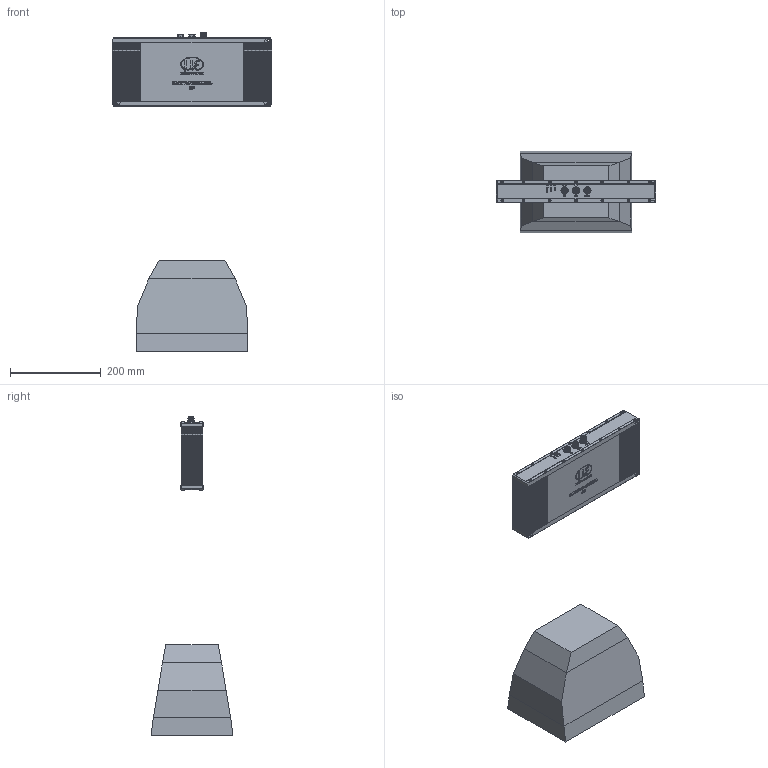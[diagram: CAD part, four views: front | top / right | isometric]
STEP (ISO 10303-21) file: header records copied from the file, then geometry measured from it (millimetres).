
FILE_DESCRIPTION((''),'2;1');
FILE_NAME('0000631938_ASM','2024-03-08T12:10:50',('11000958'),(''),'CREO PARAMETRIC BY PTC INC, 2022424','CREO PARAMETRIC BY PTC INC, 2022424','');
FILE_SCHEMA(('AUTOMOTIVE_DESIGN { 1 0 10303 214 1 1 1 1 }'));
Products named in the file (4): 0000631937; 0000609264; 0000609278; 0000631938_ASM
Assembly tree (3 placements, depth 2):
  0000631938_ASM
    0000631937
    0000609264
    0000609278
Bounding box: 350 x 180 x 702.5 mm (x, y, z)
Volume: 9131122.8 mm3; surface area: 559085.9 mm2
Topology: 4 solids, 6 shells, 4435 faces, 11857 edges, 7724 vertices
Faces by surface type: plane 1989, cylinder 1547, extrusion 619, cone 120, torus 115, bspline 35, sphere 10
Entity records: 236071 total; most frequent: CARTESIAN_POINT 56316, ORIENTED_EDGE 23694, DIRECTION 22758, PRESENTATION_STYLE_ASSIGNMENT 16050, STYLED_ITEM 12147, CURVE_STYLE 12135, EDGE_CURVE 11847, AXIS2_PLACEMENT_3D 7945
